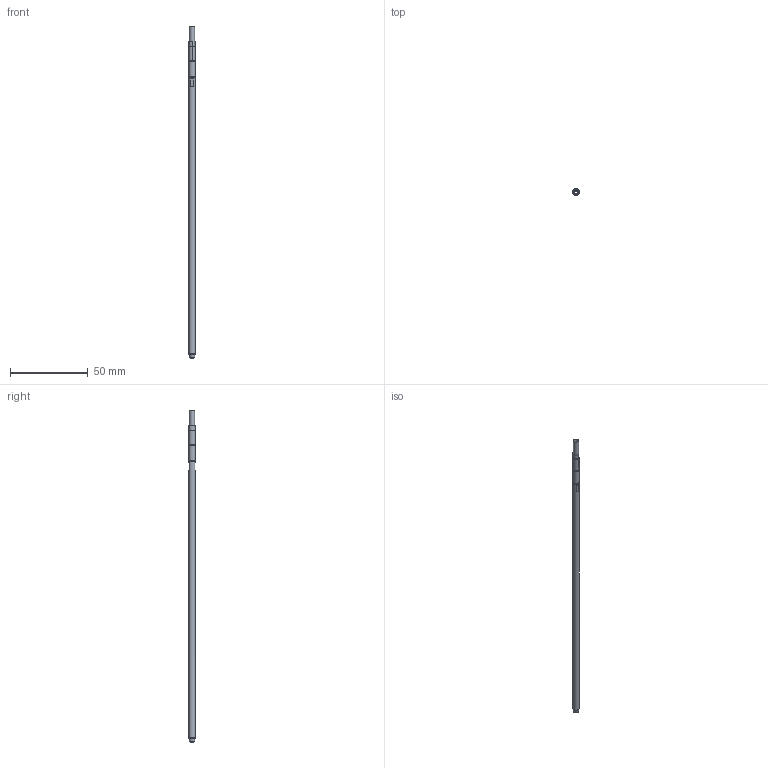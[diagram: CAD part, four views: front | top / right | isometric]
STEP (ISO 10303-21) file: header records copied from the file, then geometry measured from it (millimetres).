
FILE_DESCRIPTION(('STEP AP214'),'1');
FILE_NAME('LC-04P200-CON SEDE.stp','2025-10-28T10:56:10',(' '),(' '),'Spatial InterOp 3D',' ',' ');
FILE_SCHEMA(('AUTOMOTIVE_DESIGN { 1 0 10303 214 1 1 1 1 }'));
Length unit declared in the file: metre
Products named in the file (3): LC-04P200; LC-04P200-SEDE
Bounding box: 5 x 5 x 212.93 mm (x, y, z)
Volume: 1873.8 mm3; surface area: 4273.3 mm2
Topology: 1 solids, 3 shells, 23 faces, 49 edges, 34 vertices
Faces by surface type: plane 11, cylinder 7, cone 3, torus 1, sphere 1
Full cylindrical faces by diameter (mm): 2 x1, 3.3 x1, 3.8 x1, 4 x3
Entity records: 809 total; most frequent: DIRECTION 110, CARTESIAN_POINT 89, ORIENTED_EDGE 60, AXIS2_PLACEMENT_3D 50, EDGE_LOOP 41, EDGE_CURVE 33, VERTEX_POINT 29, STYLED_ITEM 27
